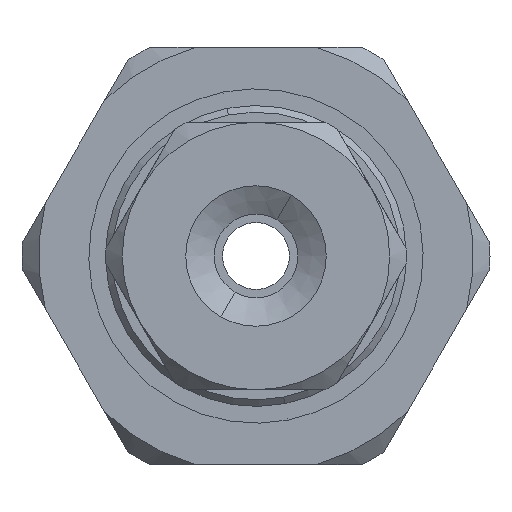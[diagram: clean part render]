
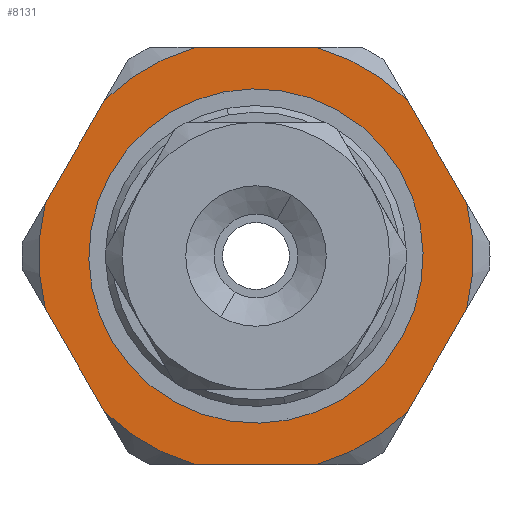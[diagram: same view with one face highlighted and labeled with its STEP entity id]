
A CAD part, front view. The second image highlights one B-rep face of the part: STEP entity #8131.
In plain terms, the highlighted planar face has unit normal (0, -1, 0).
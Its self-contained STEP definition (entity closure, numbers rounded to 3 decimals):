
#59 = AXIS2_PLACEMENT_3D ( 'NONE', #1933, #8370, #2853 ) ;
#326 = VERTEX_POINT ( 'NONE', #7450 ) ;
#411 = CARTESIAN_POINT ( 'NONE',  ( -5.323, 12.63, 10.75 ) ) ;
#525 = CARTESIAN_POINT ( 'NONE',  ( -10.115, 12.63, 10.75 ) ) ;
#578 = DIRECTION ( 'NONE',  ( 0., 1., 0. ) ) ;
#849 = CIRCLE ( 'NONE', #5130, 6.5 ) ;
#1129 = VERTEX_POINT ( 'NONE', #8692 ) ;
#1143 = ORIENTED_EDGE ( 'NONE', *, *, #4990, .F. ) ;
#1307 = VERTEX_POINT ( 'NONE', #7112 ) ;
#1435 = CIRCLE ( 'NONE', #59, 6.5 ) ;
#1458 = DIRECTION ( 'NONE',  ( 0., 1., 0. ) ) ;
#1803 = EDGE_CURVE ( 'NONE', #11772, #11832, #5222, .T. ) ;
#1845 = ORIENTED_EDGE ( 'NONE', *, *, #11154, .F. ) ;
#1906 = ORIENTED_EDGE ( 'NONE', *, *, #2647, .F. ) ;
#1933 = CARTESIAN_POINT ( 'NONE',  ( -3.537, 12.63, 17. ) ) ;
#2019 = VERTEX_POINT ( 'NONE', #10650 ) ;
#2159 = CARTESIAN_POINT ( 'NONE',  ( -9.843, 12.63, 18.579 ) ) ;
#2215 = CARTESIAN_POINT ( 'NONE',  ( -3.537, 12.63, 17. ) ) ;
#2217 = ORIENTED_EDGE ( 'NONE', *, *, #10672, .F. ) ;
#2226 = EDGE_CURVE ( 'NONE', #6672, #7833, #11237, .T. ) ;
#2256 = VERTEX_POINT ( 'NONE', #11096 ) ;
#2257 = EDGE_CURVE ( 'NONE', #10248, #10923, #1435, .T. ) ;
#2647 = EDGE_CURVE ( 'NONE', #10923, #1307, #9455, .T. ) ;
#2705 = CIRCLE ( 'NONE', #11132, 6.5 ) ;
#2779 = DIRECTION ( 'NONE',  ( 1., 0., 0. ) ) ;
#2853 = DIRECTION ( 'NONE',  ( 0., 0., 1. ) ) ;
#2992 = CARTESIAN_POINT ( 'NONE',  ( -10.526, 12.63, 16.605 ) ) ;
#3134 = DIRECTION ( 'NONE',  ( 0., 0., 1. ) ) ;
#3203 = CARTESIAN_POINT ( 'NONE',  ( -3.537, 12.63, 17. ) ) ;
#3292 = FACE_OUTER_BOUND ( 'NONE', #4394, .T. ) ;
#3372 = VECTOR ( 'NONE', #6676, 1000. ) ;
#3538 = LINE ( 'NONE', #4942, #7436 ) ;
#3596 = AXIS2_PLACEMENT_3D ( 'NONE', #2215, #8659, #3134 ) ;
#3881 = CIRCLE ( 'NONE', #3596, 6.5 ) ;
#3910 = ORIENTED_EDGE ( 'NONE', *, *, #7668, .F. ) ;
#3957 = EDGE_CURVE ( 'NONE', #326, #10019, #5270, .T. ) ;
#4142 = DIRECTION ( 'NONE',  ( 0., 0., 1. ) ) ;
#4188 = VECTOR ( 'NONE', #2779, 1000. ) ;
#4250 = ORIENTED_EDGE ( 'NONE', *, *, #3957, .F. ) ;
#4334 = DIRECTION ( 'NONE',  ( 0.5, 0., 0.866 ) ) ;
#4350 = DIRECTION ( 'NONE',  ( 0., 1., 0. ) ) ;
#4355 = AXIS2_PLACEMENT_3D ( 'NONE', #3203, #9650, #4142 ) ;
#4394 = EDGE_LOOP ( 'NONE', ( #3910, #2217, #5369, #1845, #7019, #4679, #8770, #10206, #1143, #1906, #5327, #8001 ) ) ;
#4668 = DIRECTION ( 'NONE',  ( 0.5, 0., -0.866 ) ) ;
#4679 = ORIENTED_EDGE ( 'NONE', *, *, #5828, .F. ) ;
#4804 = CARTESIAN_POINT ( 'NONE',  ( -3.537, 12.63, 17. ) ) ;
#4900 = VERTEX_POINT ( 'NONE', #411 ) ;
#4942 = CARTESIAN_POINT ( 'NONE',  ( 0.299, 12.63, 11.145 ) ) ;
#4959 = VECTOR ( 'NONE', #9100, 1000. ) ;
#4990 = EDGE_CURVE ( 'NONE', #1307, #6672, #7970, .T. ) ;
#5130 = AXIS2_PLACEMENT_3D ( 'NONE', #6118, #578, #7041 ) ;
#5201 = DIRECTION ( 'NONE',  ( 0., -1., 0. ) ) ;
#5210 = CARTESIAN_POINT ( 'NONE',  ( 2.768, 12.63, 18.579 ) ) ;
#5222 = CIRCLE ( 'NONE', #5471, 6.5 ) ;
#5270 = CIRCLE ( 'NONE', #11415, 3.5 ) ;
#5300 = AXIS2_PLACEMENT_3D ( 'NONE', #525, #11551, #8830 ) ;
#5327 = ORIENTED_EDGE ( 'NONE', *, *, #2257, .F. ) ;
#5369 = ORIENTED_EDGE ( 'NONE', *, *, #9220, .F. ) ;
#5407 = VERTEX_POINT ( 'NONE', #8482 ) ;
#5471 = AXIS2_PLACEMENT_3D ( 'NONE', #4804, #11221, #5732 ) ;
#5477 = FACE_BOUND ( 'NONE', #10777, .T. ) ;
#5732 = DIRECTION ( 'NONE',  ( 0., 0., 1. ) ) ;
#5828 = EDGE_CURVE ( 'NONE', #2256, #11772, #10261, .T. ) ;
#6118 = CARTESIAN_POINT ( 'NONE',  ( -3.537, 12.63, 17. ) ) ;
#6124 = LINE ( 'NONE', #2992, #3372 ) ;
#6219 = CARTESIAN_POINT ( 'NONE',  ( 2.768, 12.63, 15.421 ) ) ;
#6573 = CARTESIAN_POINT ( 'NONE',  ( -1.752, 12.63, 23.25 ) ) ;
#6672 = VERTEX_POINT ( 'NONE', #8121 ) ;
#6676 = DIRECTION ( 'NONE',  ( -0.5, 0., 0.866 ) ) ;
#6802 = DIRECTION ( 'NONE',  ( -0.5, 0., -0.866 ) ) ;
#7006 = CARTESIAN_POINT ( 'NONE',  ( -3.537, 12.63, 17. ) ) ;
#7019 = ORIENTED_EDGE ( 'NONE', *, *, #1803, .F. ) ;
#7041 = DIRECTION ( 'NONE',  ( 0., 0., 1. ) ) ;
#7112 = CARTESIAN_POINT ( 'NONE',  ( -8.057, 12.63, 21.671 ) ) ;
#7436 = VECTOR ( 'NONE', #6802, 1000. ) ;
#7450 = CARTESIAN_POINT ( 'NONE',  ( -3.537, 12.63, 20.5 ) ) ;
#7668 = EDGE_CURVE ( 'NONE', #4900, #1129, #849, .T. ) ;
#7833 = VERTEX_POINT ( 'NONE', #6573 ) ;
#7911 = PLANE ( 'NONE',  #5300 ) ;
#7920 = DIRECTION ( 'NONE',  ( 0., 0., 1. ) ) ;
#7970 = CIRCLE ( 'NONE', #11747, 6.5 ) ;
#8001 = ORIENTED_EDGE ( 'NONE', *, *, #11519, .F. ) ;
#8121 = CARTESIAN_POINT ( 'NONE',  ( -5.323, 12.63, 23.25 ) ) ;
#8131 = ADVANCED_FACE ( 'NONE', ( #5477, #3292 ), #7911, .F. ) ;
#8370 = DIRECTION ( 'NONE',  ( 0., 1., 0. ) ) ;
#8482 = CARTESIAN_POINT ( 'NONE',  ( -1.752, 12.63, 10.75 ) ) ;
#8505 = ORIENTED_EDGE ( 'NONE', *, *, #9118, .F. ) ;
#8574 = EDGE_CURVE ( 'NONE', #7833, #2256, #3881, .T. ) ;
#8659 = DIRECTION ( 'NONE',  ( 0., 1., 0. ) ) ;
#8692 = CARTESIAN_POINT ( 'NONE',  ( -8.057, 12.63, 12.329 ) ) ;
#8770 = ORIENTED_EDGE ( 'NONE', *, *, #8574, .F. ) ;
#8830 = DIRECTION ( 'NONE',  ( 0., 0., 1. ) ) ;
#9100 = DIRECTION ( 'NONE',  ( -1., 0., 0. ) ) ;
#9118 = EDGE_CURVE ( 'NONE', #10019, #326, #10905, .T. ) ;
#9220 = EDGE_CURVE ( 'NONE', #2019, #5407, #2705, .T. ) ;
#9455 = LINE ( 'NONE', #11679, #11593 ) ;
#9650 = DIRECTION ( 'NONE',  ( 0., -1., 0. ) ) ;
#9845 = LINE ( 'NONE', #10103, #4959 ) ;
#9847 = CARTESIAN_POINT ( 'NONE',  ( -3.537, 12.63, 17. ) ) ;
#10019 = VERTEX_POINT ( 'NONE', #11157 ) ;
#10103 = CARTESIAN_POINT ( 'NONE',  ( -3.537, 12.63, 10.75 ) ) ;
#10171 = CARTESIAN_POINT ( 'NONE',  ( 3.452, 12.63, 17.395 ) ) ;
#10206 = ORIENTED_EDGE ( 'NONE', *, *, #2226, .F. ) ;
#10248 = VERTEX_POINT ( 'NONE', #11262 ) ;
#10261 = LINE ( 'NONE', #10171, #11826 ) ;
#10650 = CARTESIAN_POINT ( 'NONE',  ( 0.983, 12.63, 12.329 ) ) ;
#10672 = EDGE_CURVE ( 'NONE', #5407, #4900, #9845, .T. ) ;
#10697 = CARTESIAN_POINT ( 'NONE',  ( -3.537, 12.63, 17. ) ) ;
#10773 = DIRECTION ( 'NONE',  ( 0., 0., 1. ) ) ;
#10777 = EDGE_LOOP ( 'NONE', ( #4250, #8505 ) ) ;
#10905 = CIRCLE ( 'NONE', #4355, 3.5 ) ;
#10923 = VERTEX_POINT ( 'NONE', #2159 ) ;
#11019 = CARTESIAN_POINT ( 'NONE',  ( -3.537, 12.63, 23.25 ) ) ;
#11096 = CARTESIAN_POINT ( 'NONE',  ( 0.983, 12.63, 21.671 ) ) ;
#11132 = AXIS2_PLACEMENT_3D ( 'NONE', #9847, #4350, #10773 ) ;
#11154 = EDGE_CURVE ( 'NONE', #11832, #2019, #3538, .T. ) ;
#11157 = CARTESIAN_POINT ( 'NONE',  ( -3.537, 12.63, 13.5 ) ) ;
#11221 = DIRECTION ( 'NONE',  ( 0., 1., 0. ) ) ;
#11237 = LINE ( 'NONE', #11019, #4188 ) ;
#11262 = CARTESIAN_POINT ( 'NONE',  ( -9.843, 12.63, 15.421 ) ) ;
#11415 = AXIS2_PLACEMENT_3D ( 'NONE', #10697, #5201, #11606 ) ;
#11519 = EDGE_CURVE ( 'NONE', #1129, #10248, #6124, .T. ) ;
#11551 = DIRECTION ( 'NONE',  ( 0., 1., 0. ) ) ;
#11593 = VECTOR ( 'NONE', #4334, 1000. ) ;
#11606 = DIRECTION ( 'NONE',  ( 0., 0., 1. ) ) ;
#11679 = CARTESIAN_POINT ( 'NONE',  ( -7.374, 12.63, 22.855 ) ) ;
#11747 = AXIS2_PLACEMENT_3D ( 'NONE', #7006, #1458, #7920 ) ;
#11772 = VERTEX_POINT ( 'NONE', #5210 ) ;
#11826 = VECTOR ( 'NONE', #4668, 1000. ) ;
#11832 = VERTEX_POINT ( 'NONE', #6219 ) ;
